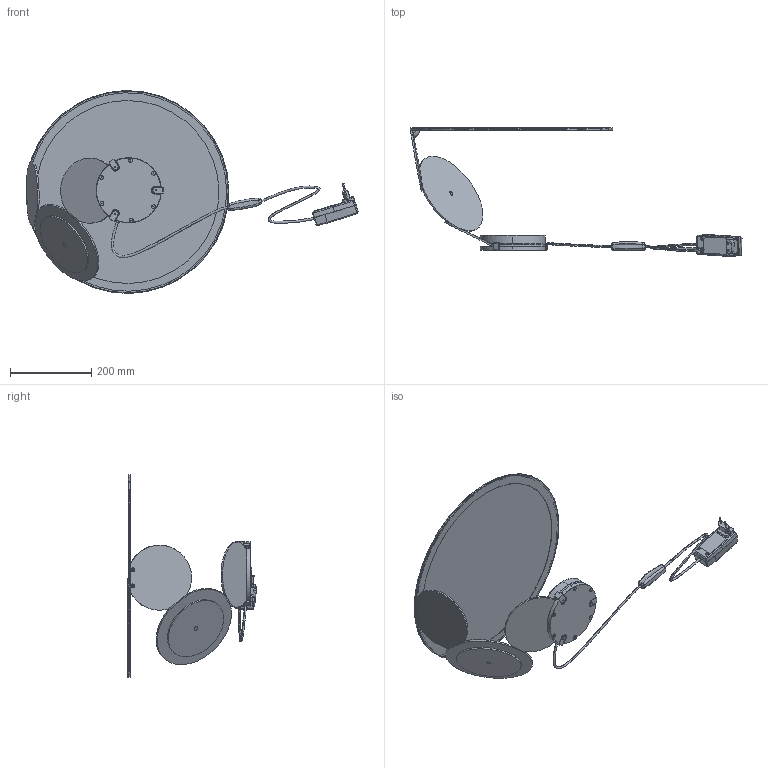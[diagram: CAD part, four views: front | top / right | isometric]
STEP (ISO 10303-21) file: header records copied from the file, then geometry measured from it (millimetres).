
FILE_DESCRIPTION (( 'STEP AP203' ), '1' );
FILE_NAME ('CUT-TABLE_1.STEP', '2019-07-25T14:25:21', ( '' ), ( '' ), 'SwSTEP 2.0', 'SolidWorks 2019', '' );
FILE_SCHEMA (( 'CONFIG_CONTROL_DESIGN' ));
Length unit declared in the file: millimetre
Products named in the file (25): piedino_silicone__10.STEP; AXO067-08_CUTTopRing.STEP; AXO067-10_CUTRingSupport.STEP; pulsante_push_RELCO-RL7151.STEP; CUT-TABLE_1.STEP; AXO067D-CUT_Frame.STEP; AXO067-12_CUTTableBase.STEP; driver_led_multi_20W_RELCO_RN1515N_EU.STEP; nipple_SACLA_CoronaPiana_12291_nikelato.STEP; AXO067-07_CUTDisc.STEP; AXO067-15_CUTFeltroInterfaccia.STEP; AXO067E-CUTLightBlock_12LED.STEP; AXO067F_CUT_default.STEP; AXO067-02_CUTFramePin.STEP; AXO067-09_CUTBottomRing.STEP; AXO067-06_CUTLensPlate.STEP; AXO067-01_CUTFrame_Default_As Machined_.STEP; AXO067-04_CUTHeatsink.STEP; AXO067-03_CUTFrameHolder.STEP; AXO067-22_CUTFrameSpacer.STEP; Cablaggio Tavolo^AXO067A_CUT-TABLE.STEP; lente_protezione__67_EA_LM067.STEP; AXO067-05_CUTHeatsinkLock.STEP; CUT-TABLE_1; AXO067-11_CUTBracket_CNC.STEP
Assembly tree (31 placements, depth 5):
  CUT-TABLE_1
    CUT-TABLE_1.STEP
      AXO067F_CUT_default.STEP
        AXO067D-CUT_Frame.STEP
          AXO067-01_CUTFrame_Default_As Machined_.STEP
          AXO067-02_CUTFramePin.STEP
          AXO067-03_CUTFrameHolder.STEP
          AXO067-22_CUTFrameSpacer.STEP
        AXO067E-CUTLightBlock_12LED.STEP
          AXO067-04_CUTHeatsink.STEP
          AXO067-05_CUTHeatsinkLock.STEP
          AXO067-06_CUTLensPlate.STEP
          nipple_SACLA_CoronaPiana_12291_nikelato.STEP
          lente_protezione__67_EA_LM067.STEP
        AXO067-07_CUTDisc.STEP
        AXO067-08_CUTTopRing.STEP
        AXO067-09_CUTBottomRing.STEP
        AXO067-10_CUTRingSupport.STEP
      AXO067-11_CUTBracket_CNC.STEP  x3
      AXO067-12_CUTTableBase.STEP
      AXO067-15_CUTFeltroInterfaccia.STEP
      Cablaggio Tavolo^AXO067A_CUT-TABLE.STEP
      pulsante_push_RELCO-RL7151.STEP
      driver_led_multi_20W_RELCO_RN1515N_EU.STEP
      piedino_silicone__10.STEP  x6
Bounding box: 816.39 x 315.42 x 498.93 mm (x, y, z)
Volume: 1801232.8 mm3; surface area: 1026767.3 mm2
Topology: 29 solids, 29 shells, 842 faces, 2011 edges, 1242 vertices
Faces by surface type: cylinder 283, plane 281, cone 165, bspline 44, sphere 42, torus 27
Entity records: 35729 total; most frequent: CARTESIAN_POINT 15350, DIRECTION 3784, ORIENTED_EDGE 3592, EDGE_CURVE 1796, AXIS2_PLACEMENT_3D 1540, VERTEX_POINT 1130, EDGE_LOOP 864, CIRCLE 789
